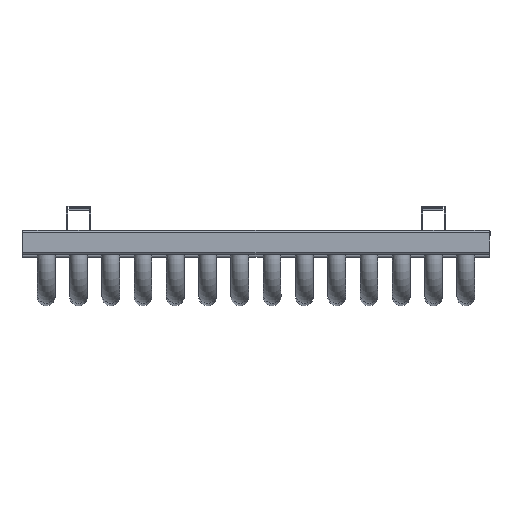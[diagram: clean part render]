
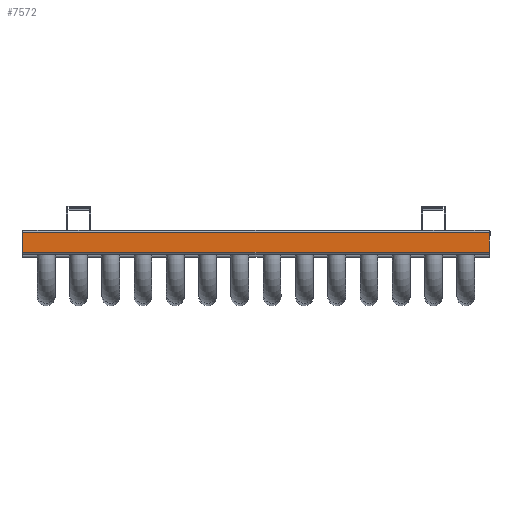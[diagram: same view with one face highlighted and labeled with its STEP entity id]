
A CAD part, top view. The second image highlights one B-rep face of the part: STEP entity #7572.
In plain terms, the highlighted planar face has unit normal (0, 0, 1).
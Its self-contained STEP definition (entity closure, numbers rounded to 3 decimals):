
#3950=CARTESIAN_POINT('',(289.,-12.,2000.));
#3951=VERTEX_POINT('',#3950);
#3982=CARTESIAN_POINT('',(289.,12.,2000.));
#3983=VERTEX_POINT('',#3982);
#4024=CARTESIAN_POINT('',(289.,12.,2000.));
#4025=DIRECTION('',(0.0,-1.0,0.0));
#4026=VECTOR('',#4025,24.0);
#4027=LINE('',#4024,#4026);
#4028=EDGE_CURVE('',#3983,#3951,#4027,.T.);
#4126=CARTESIAN_POINT('',(-289.,12.,2000.));
#4127=VERTEX_POINT('',#4126);
#4192=CARTESIAN_POINT('',(-289.,-12.,2000.));
#4193=VERTEX_POINT('',#4192);
#4201=CARTESIAN_POINT('',(-289.,-12.,2000.));
#4202=DIRECTION('',(0.0,1.0,0.0));
#4203=VECTOR('',#4202,24.);
#4204=LINE('',#4201,#4203);
#4205=EDGE_CURVE('',#4193,#4127,#4204,.T.);
#7536=CARTESIAN_POINT('',(289.,12.,2000.));
#7537=DIRECTION('',(-1.0,0.0,0.0));
#7538=VECTOR('',#7537,578.0);
#7539=LINE('',#7536,#7538);
#7540=EDGE_CURVE('',#3983,#4127,#7539,.T.);
#7556=CARTESIAN_POINT('',(288.5,12.,2000.));
#7557=DIRECTION('',(0.0,0.0,1.0));
#7558=DIRECTION('',(-1.0,0.0,0.0));
#7559=AXIS2_PLACEMENT_3D('',#7556,#7557,#7558);
#7560=PLANE('',#7559);
#7561=CARTESIAN_POINT('',(289.,-12.,2000.));
#7562=DIRECTION('',(-1.0,0.0,0.0));
#7563=VECTOR('',#7562,578.0);
#7564=LINE('',#7561,#7563);
#7565=EDGE_CURVE('',#3951,#4193,#7564,.T.);
#7566=ORIENTED_EDGE('',*,*,#7565,.F.);
#7567=ORIENTED_EDGE('',*,*,#4028,.F.);
#7568=ORIENTED_EDGE('',*,*,#7540,.T.);
#7569=ORIENTED_EDGE('',*,*,#4205,.F.);
#7570=EDGE_LOOP('',(#7566,#7567,#7568,#7569));
#7571=FACE_OUTER_BOUND('',#7570,.T.);
#7572=ADVANCED_FACE('',(#7571),#7560,.T.);
